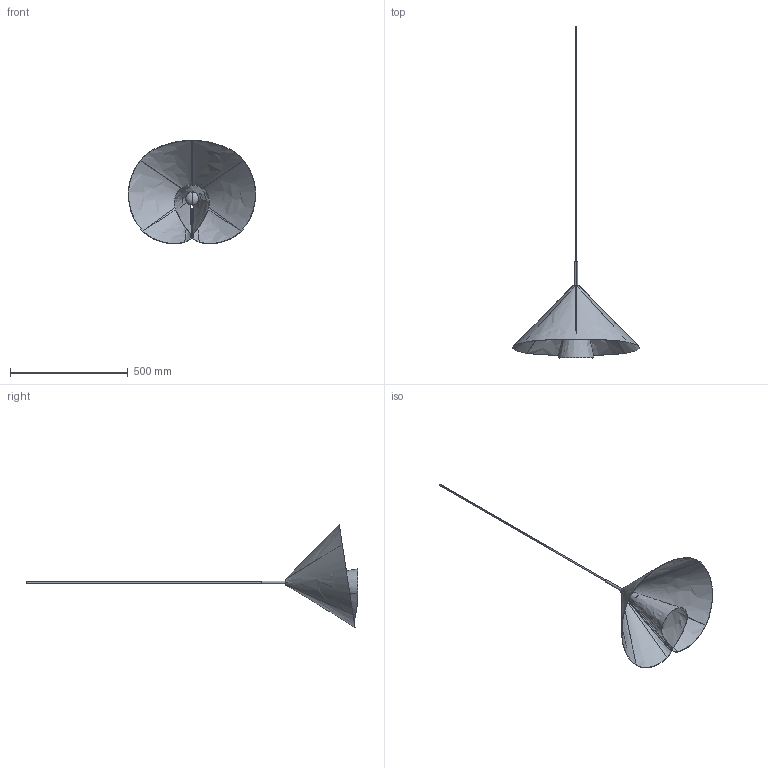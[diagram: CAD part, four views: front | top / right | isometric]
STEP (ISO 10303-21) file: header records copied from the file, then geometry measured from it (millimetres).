
FILE_DESCRIPTION (( 'STEP AP214' ), '1' );
FILE_NAME ('Diffus_assembly_.STEP', '2020-09-16T10:06:16', ( '' ), ( '' ), 'SwSTEP 2.0', 'SolidWorks 2018', '' );
FILE_SCHEMA (( 'AUTOMOTIVE_DESIGN' ));
Length unit declared in the file: millimetre
Products named in the file (5): Diffus_assembly_; gl_dlampa e27.STEP; dIFFUS_LAMPH_LLARE.STEP; Diffus_assembly.STEP; Diffus
Assembly tree (4 placements, depth 3):
  Diffus_assembly_
    Diffus_assembly.STEP
      dIFFUS_LAMPH_LLARE.STEP
      gl_dlampa e27.STEP
    Diffus
Bounding box: 542.13 x 1412.58 x 440.32 mm (x, y, z)
Volume: 376395.9 mm3; surface area: 838367.2 mm2
Topology: 8 solids, 8 shells, 125 faces, 304 edges, 198 vertices
Faces by surface type: bspline 45, cylinder 36, plane 30, torus 14
Entity records: 5802 total; most frequent: CARTESIAN_POINT 2796, ORIENTED_EDGE 604, DIRECTION 519, EDGE_CURVE 302, AXIS2_PLACEMENT_3D 210, VERTEX_POINT 198, EDGE_LOOP 130, FACE_OUTER_BOUND 125
